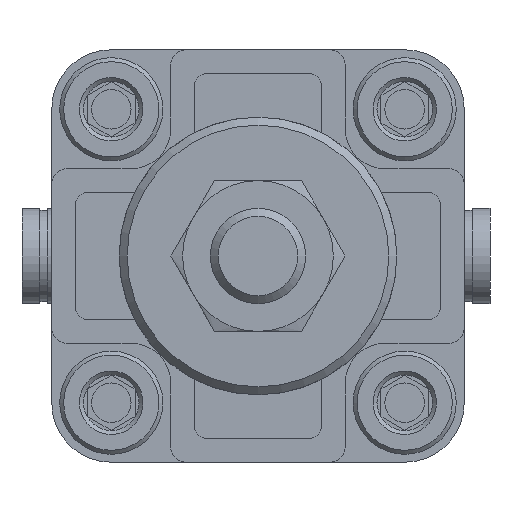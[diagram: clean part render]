
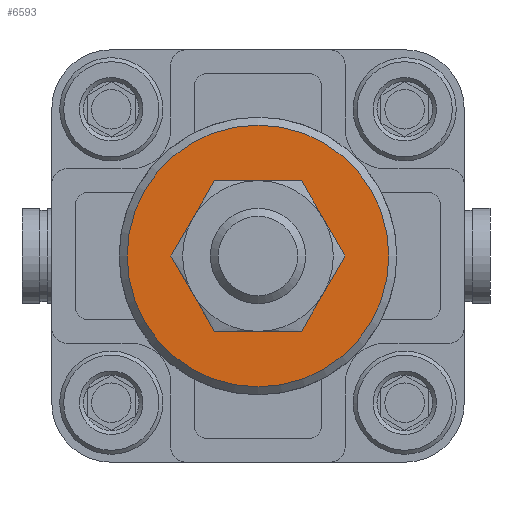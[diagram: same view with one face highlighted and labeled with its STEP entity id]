
A CAD part, front view. The second image highlights one B-rep face of the part: STEP entity #6593.
In plain terms, the highlighted planar face has unit normal (0, -1, 0).
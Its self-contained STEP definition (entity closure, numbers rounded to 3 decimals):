
#1052=ORIENTED_EDGE('',*,*,#2444,.T.);
#1053=ORIENTED_EDGE('',*,*,#2442,.T.);
#2442=EDGE_CURVE('',#3139,#3139,#3636,.T.);
#2444=EDGE_CURVE('',#3141,#3141,#3638,.F.);
#3139=VERTEX_POINT('',#9168);
#3141=VERTEX_POINT('',#9174);
#3636=CIRCLE('',#6952,9.);
#3638=CIRCLE('',#6956,16.5);
#3913=EDGE_LOOP('',(#1052));
#3914=EDGE_LOOP('',(#1053));
#4375=FACE_BOUND('',#3913,.T.);
#4376=FACE_BOUND('',#3914,.T.);
#4831=PLANE('',#6955);
#6593=ADVANCED_FACE('',(#4375,#4376),#4831,.F.);
#6952=AXIS2_PLACEMENT_3D('',#9167,#7565,#7566);
#6955=AXIS2_PLACEMENT_3D('',#9172,#7571,#7572);
#6956=AXIS2_PLACEMENT_3D('',#9173,#7573,#7574);
#7565=DIRECTION('',(0.,1.,0.));
#7566=DIRECTION('',(0.,0.,1.));
#7571=DIRECTION('',(0.,1.,0.));
#7572=DIRECTION('',(0.,0.,1.));
#7573=DIRECTION('',(0.,1.,0.));
#7574=DIRECTION('',(0.,0.,1.));
#9167=CARTESIAN_POINT('',(0.,-46.,0.));
#9168=CARTESIAN_POINT('',(0.,-46.,9.));
#9172=CARTESIAN_POINT('',(0.,-46.,0.));
#9173=CARTESIAN_POINT('',(0.,-46.,0.));
#9174=CARTESIAN_POINT('',(0.,-46.,16.5));
